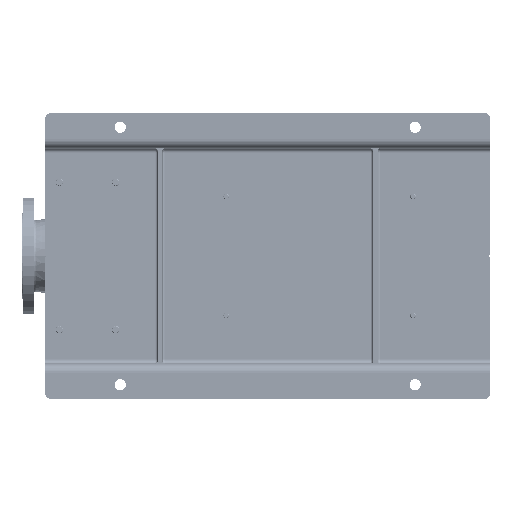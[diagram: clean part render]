
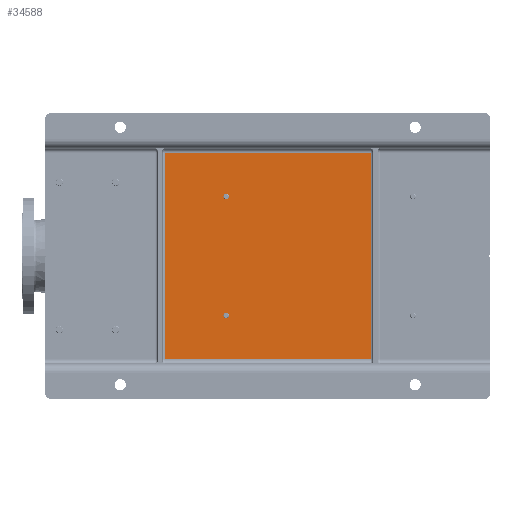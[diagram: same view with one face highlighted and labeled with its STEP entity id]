
A CAD part, front view. The second image highlights one B-rep face of the part: STEP entity #34588.
In plain terms, the highlighted planar face has unit normal (0, -1, 0).
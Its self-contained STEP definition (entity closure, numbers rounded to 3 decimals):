
#2248 = VERTEX_POINT ( 'NONE', #154310 ) ;
#3573 = DIRECTION ( 'NONE',  ( 0., -1., 0. ) ) ;
#16602 = VERTEX_POINT ( 'NONE', #240120 ) ;
#19132 = CARTESIAN_POINT ( 'NONE',  ( 178., 65., -386.5 ) ) ;
#19423 = DIRECTION ( 'NONE',  ( 1., 0., 0. ) ) ;
#22618 = LINE ( 'NONE', #266000, #174662 ) ;
#23092 = DIRECTION ( 'NONE',  ( 0., 1., 0. ) ) ;
#25045 = DIRECTION ( 'NONE',  ( 0., 0., -1. ) ) ;
#27973 = DIRECTION ( 'NONE',  ( 0., 1., 0. ) ) ;
#29612 = ORIENTED_EDGE ( 'NONE', *, *, #207266, .T. ) ;
#31300 = ORIENTED_EDGE ( 'NONE', *, *, #229343, .T. ) ;
#34017 = CIRCLE ( 'NONE', #261625, 6. ) ;
#34588 = ADVANCED_FACE ( 'NONE', ( #249593, #88190, #170197 ), #171517, .T. ) ;
#36017 = DIRECTION ( 'NONE',  ( 0., 0., -1. ) ) ;
#36203 = CARTESIAN_POINT ( 'NONE',  ( 525., 65., -695. ) ) ;
#38363 = EDGE_CURVE ( 'NONE', #254022, #70755, #220118, .T. ) ;
#39130 = ORIENTED_EDGE ( 'NONE', *, *, #108241, .T. ) ;
#50611 = CARTESIAN_POINT ( 'NONE',  ( 178., 65., -386.5 ) ) ;
#53830 = EDGE_CURVE ( 'NONE', #70755, #109511, #222399, .T. ) ;
#56896 = DIRECTION ( 'NONE',  ( 0., 0., -1. ) ) ;
#59090 = DIRECTION ( 'NONE',  ( 0., 0., 1. ) ) ;
#61050 = CARTESIAN_POINT ( 'NONE',  ( 75., 65., -695. ) ) ;
#62902 = CARTESIAN_POINT ( 'NONE',  ( 178., 65., -392.5 ) ) ;
#64262 = DIRECTION ( 'NONE',  ( -1., 0., 0. ) ) ;
#65710 = CARTESIAN_POINT ( 'NONE',  ( 432., 65., -380.5 ) ) ;
#70755 = VERTEX_POINT ( 'NONE', #146016 ) ;
#72805 = VERTEX_POINT ( 'NONE', #62902 ) ;
#76900 = AXIS2_PLACEMENT_3D ( 'NONE', #50611, #132604, #56896 ) ;
#88190 = FACE_BOUND ( 'NONE', #135479, .T. ) ;
#103261 = ORIENTED_EDGE ( 'NONE', *, *, #220252, .T. ) ;
#106561 = EDGE_CURVE ( 'NONE', #205522, #254099, #212649, .T. ) ;
#107936 = ORIENTED_EDGE ( 'NONE', *, *, #38363, .T. ) ;
#108241 = EDGE_CURVE ( 'NONE', #16602, #254022, #22618, .T. ) ;
#109511 = VERTEX_POINT ( 'NONE', #36203 ) ;
#113843 = AXIS2_PLACEMENT_3D ( 'NONE', #150306, #27973, #252502 ) ;
#114652 = ORIENTED_EDGE ( 'NONE', *, *, #106561, .T. ) ;
#115815 = EDGE_CURVE ( 'NONE', #72805, #2248, #34017, .T. ) ;
#118431 = EDGE_LOOP ( 'NONE', ( #103261, #114652 ) ) ;
#125641 = AXIS2_PLACEMENT_3D ( 'NONE', #128529, #3573, #25045 ) ;
#126064 = CIRCLE ( 'NONE', #233559, 6. ) ;
#128529 = CARTESIAN_POINT ( 'NONE',  ( 75., 65., -950. ) ) ;
#129522 = ORIENTED_EDGE ( 'NONE', *, *, #115815, .T. ) ;
#132604 = DIRECTION ( 'NONE',  ( 0., 1., 0. ) ) ;
#135479 = EDGE_LOOP ( 'NONE', ( #29612, #129522 ) ) ;
#138140 = CARTESIAN_POINT ( 'NONE',  ( 85., 65., -700. ) ) ;
#146016 = CARTESIAN_POINT ( 'NONE',  ( 85., 65., -695. ) ) ;
#149272 = EDGE_LOOP ( 'NONE', ( #107936, #214407, #31300, #39130 ) ) ;
#150306 = CARTESIAN_POINT ( 'NONE',  ( 432., 65., -386.5 ) ) ;
#154310 = CARTESIAN_POINT ( 'NONE',  ( 178., 65., -380.5 ) ) ;
#154526 = CARTESIAN_POINT ( 'NONE',  ( 525., 65., -250. ) ) ;
#159979 = DIRECTION ( 'NONE',  ( 0., 1., 0. ) ) ;
#161605 = DIRECTION ( 'NONE',  ( 0., 0., -1. ) ) ;
#170197 = FACE_OUTER_BOUND ( 'NONE', #149272, .T. ) ;
#171517 = PLANE ( 'NONE',  #125641 ) ;
#174662 = VECTOR ( 'NONE', #64262, 1000. ) ;
#175747 = CIRCLE ( 'NONE', #76900, 6. ) ;
#192593 = CARTESIAN_POINT ( 'NONE',  ( 432., 65., -392.5 ) ) ;
#194842 = LINE ( 'NONE', #154526, #213727 ) ;
#205522 = VERTEX_POINT ( 'NONE', #192593 ) ;
#206520 = VECTOR ( 'NONE', #36017, 1000. ) ;
#207266 = EDGE_CURVE ( 'NONE', #2248, #72805, #175747, .T. ) ;
#207460 = VECTOR ( 'NONE', #19423, 1000. ) ;
#212649 = CIRCLE ( 'NONE', #113843, 6. ) ;
#213727 = VECTOR ( 'NONE', #218987, 1000. ) ;
#214407 = ORIENTED_EDGE ( 'NONE', *, *, #53830, .T. ) ;
#218987 = DIRECTION ( 'NONE',  ( 0., 0., 1. ) ) ;
#220118 = LINE ( 'NONE', #138140, #206520 ) ;
#220252 = EDGE_CURVE ( 'NONE', #254099, #205522, #126064, .T. ) ;
#221760 = CARTESIAN_POINT ( 'NONE',  ( 432., 65., -386.5 ) ) ;
#222399 = LINE ( 'NONE', #61050, #207460 ) ;
#225694 = CARTESIAN_POINT ( 'NONE',  ( 85., 65., -255. ) ) ;
#229343 = EDGE_CURVE ( 'NONE', #109511, #16602, #194842, .T. ) ;
#233559 = AXIS2_PLACEMENT_3D ( 'NONE', #221760, #159979, #59090 ) ;
#240120 = CARTESIAN_POINT ( 'NONE',  ( 525., 65., -255. ) ) ;
#249593 = FACE_BOUND ( 'NONE', #118431, .T. ) ;
#252502 = DIRECTION ( 'NONE',  ( 0., 0., 1. ) ) ;
#254022 = VERTEX_POINT ( 'NONE', #225694 ) ;
#254099 = VERTEX_POINT ( 'NONE', #65710 ) ;
#261625 = AXIS2_PLACEMENT_3D ( 'NONE', #19132, #23092, #161605 ) ;
#266000 = CARTESIAN_POINT ( 'NONE',  ( 75., 65., -255. ) ) ;
